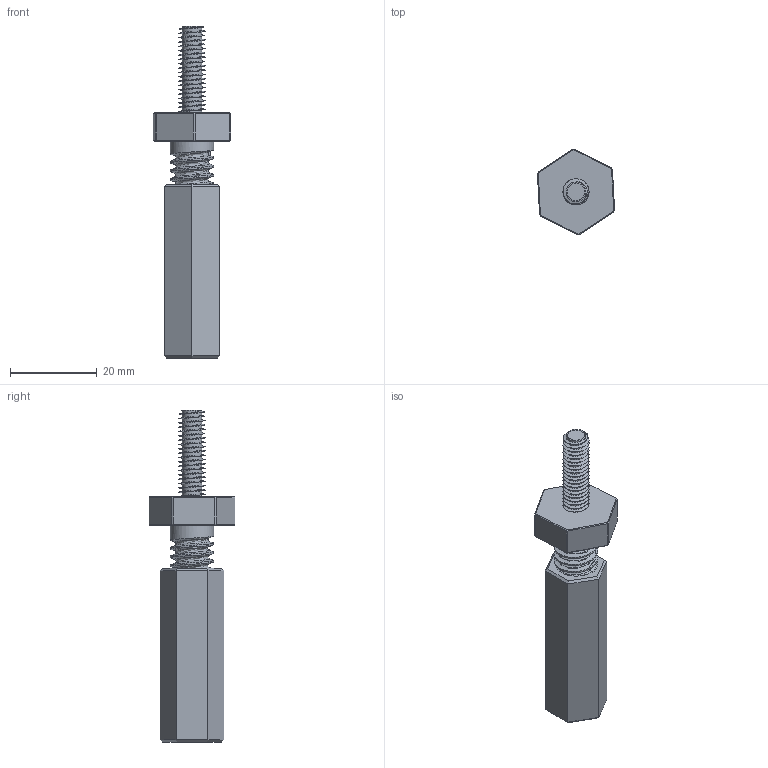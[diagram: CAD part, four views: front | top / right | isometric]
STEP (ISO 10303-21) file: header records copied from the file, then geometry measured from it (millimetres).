
FILE_DESCRIPTION(/* description */ ('Unknown'),/* implementation_level */ '2;1');
FILE_NAME(/* name */ 'Treppo 40',/* time_stamp */ '2020-05-04T15:52:02+02:00',/* author */ ('Unknown'),/* organization */ ('Unknown'),/* preprocessor_version */ 'ST-DEVELOPER v16.7',/* originating_system */ 'DEX',/* authorisation */ $);
FILE_SCHEMA (('AUTOMOTIVE_DESIGN {1 0 10303 214 3 1 1}'));
Length unit declared in the file: millimetre
Products named in the file (4): Treppo 40; Langmutter Mx40; Gewindestange; M 10x40.m.Gwinde
Assembly tree (3 placements, depth 2):
  Treppo 40
    Langmutter Mx40
    Gewindestange
    M 10x40.m.Gwinde
Bounding box: 17.8 x 19.79 x 76.5 mm (x, y, z)
Volume: 6933.5 mm3; surface area: 6942.3 mm2
Topology: 2 solids, 3 shells, 98 faces, 220 edges, 129 vertices
Faces by surface type: plane 63, cylinder 24, bspline 5, cone 3, torus 3
Full cylindrical faces by diameter (mm): 4.917 x1, 8.8 x1, 10 x19
Entity records: 14214 total; most frequent: CARTESIAN_POINT 12606, DIRECTION 303, ORIENTED_EDGE 296, EDGE_CURVE 148, LINE 117, VECTOR 117, AXIS2_PLACEMENT_3D 93, EDGE_LOOP 90
